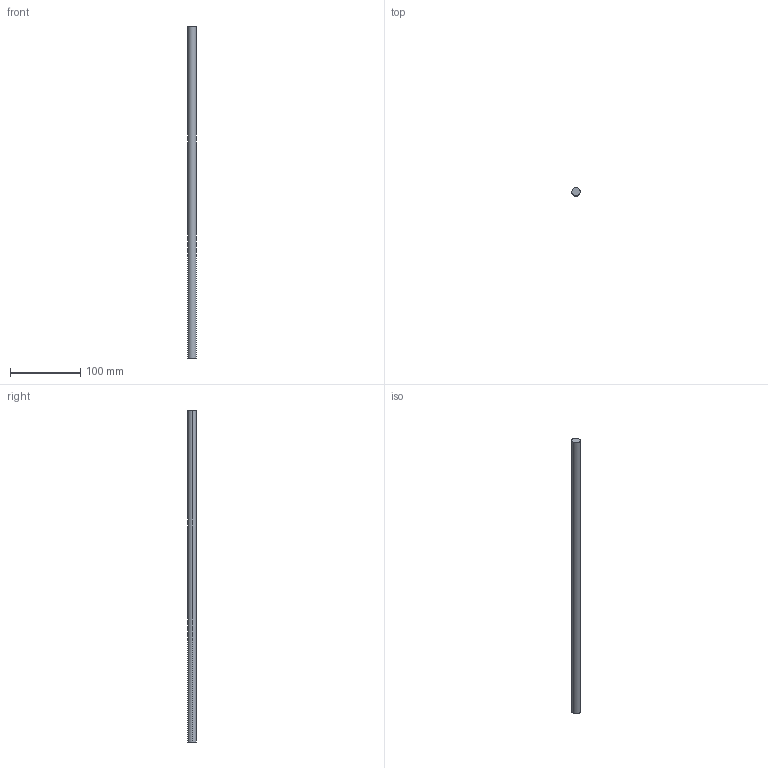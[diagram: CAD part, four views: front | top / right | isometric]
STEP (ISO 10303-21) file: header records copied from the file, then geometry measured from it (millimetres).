
FILE_DESCRIPTION(/* description */ (''),/* implementation_level */ '2;1');
FILE_NAME(/* name */ 'GUIALI~1',/* time_stamp */ '2019-04-01T20:11:30-03:00',/* author */ (''),/* organization */ (''),/* preprocessor_version */ 'ST-DEVELOPER v16.5',/* originating_system */ '',/* authorisation */ '');
FILE_SCHEMA (('AUTOMOTIVE_DESIGN'));
Length unit declared in the file: millimetre
Products named in the file (1): Document
Bounding box: 12 x 11.98 x 472.79 mm (x, y, z)
Volume: 53579.2 mm3; surface area: 18074.9 mm2
Topology: 1 solids, 1 shells, 4 faces, 6 edges, 4 vertices
Faces by surface type: bspline 2, plane 2
Entity records: 117 total; most frequent: CARTESIAN_POINT 52, ORIENTED_EDGE 12, EDGE_CURVE 6, DIRECTION 6, ADVANCED_FACE 4, FACE_OUTER_BOUND 4, EDGE_LOOP 4, VERTEX_POINT 4
